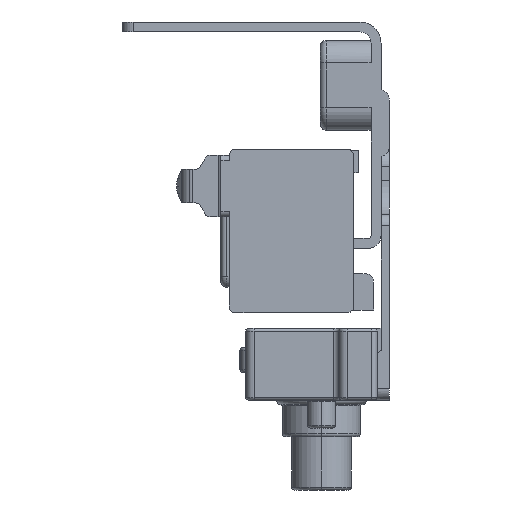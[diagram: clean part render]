
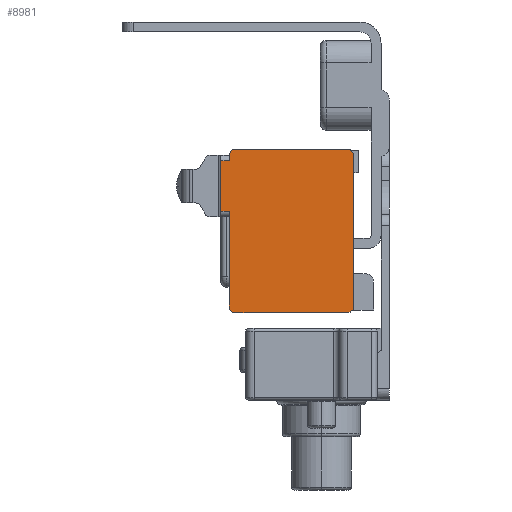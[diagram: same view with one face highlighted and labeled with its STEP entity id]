
A CAD part, left-side view. The second image highlights one B-rep face of the part: STEP entity #8981.
In plain terms, the highlighted planar face has unit normal (-1, 0, 0).
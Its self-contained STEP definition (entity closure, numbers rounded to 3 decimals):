
#37 = CARTESIAN_POINT ( 'NONE',  ( -428., 28.5, 15.6 ) ) ;
#100 = VECTOR ( 'NONE', #1734, 1000. ) ;
#315 = ORIENTED_EDGE ( 'NONE', *, *, #10650, .T. ) ;
#331 = ORIENTED_EDGE ( 'NONE', *, *, #7683, .T. ) ;
#647 = CIRCLE ( 'NONE', #8768, 1. ) ;
#735 = CARTESIAN_POINT ( 'NONE',  ( -428., 27., -10.43 ) ) ;
#966 = CARTESIAN_POINT ( 'NONE',  ( -428., 5.9, -10.43 ) ) ;
#969 = LINE ( 'NONE', #2656, #10990 ) ;
#1026 = CARTESIAN_POINT ( 'NONE',  ( -428., 4.9, 16.6 ) ) ;
#1138 = CIRCLE ( 'NONE', #8184, 1. ) ;
#1160 = EDGE_CURVE ( 'NONE', #6567, #1204, #11928, .T. ) ;
#1204 = VERTEX_POINT ( 'NONE', #6650 ) ;
#1224 = DIRECTION ( 'NONE',  ( -1., 0., 0. ) ) ;
#1597 = VECTOR ( 'NONE', #5221, 1000. ) ;
#1734 = DIRECTION ( 'NONE',  ( 0., 0., -1. ) ) ;
#1789 = CARTESIAN_POINT ( 'NONE',  ( -428., 28.5, 6.6 ) ) ;
#1976 = DIRECTION ( 'NONE',  ( 0., 1., 0. ) ) ;
#2097 = CARTESIAN_POINT ( 'NONE',  ( -428., 4.9, -10.43 ) ) ;
#2656 = CARTESIAN_POINT ( 'NONE',  ( -428., 5.9, -11.43 ) ) ;
#2898 = DIRECTION ( 'NONE',  ( -1., 0., 0. ) ) ;
#2976 = FACE_OUTER_BOUND ( 'NONE', #7958, .T. ) ;
#3079 = LINE ( 'NONE', #5211, #11093 ) ;
#3250 = ORIENTED_EDGE ( 'NONE', *, *, #8422, .T. ) ;
#3545 = CARTESIAN_POINT ( 'NONE',  ( -428., 28.5, 15.6 ) ) ;
#3655 = DIRECTION ( 'NONE',  ( 0., -1., 0. ) ) ;
#3938 = EDGE_CURVE ( 'NONE', #6869, #6567, #9049, .T. ) ;
#3952 = ORIENTED_EDGE ( 'NONE', *, *, #11631, .T. ) ;
#4030 = LINE ( 'NONE', #1789, #6744 ) ;
#4055 = EDGE_CURVE ( 'NONE', #10079, #6869, #8123, .T. ) ;
#4075 = CARTESIAN_POINT ( 'NONE',  ( -428., 26., -10.43 ) ) ;
#4190 = AXIS2_PLACEMENT_3D ( 'NONE', #8933, #2898, #9911 ) ;
#4265 = DIRECTION ( 'NONE',  ( 1., 0., 0. ) ) ;
#4822 = LINE ( 'NONE', #2097, #9820 ) ;
#5083 = DIRECTION ( 'NONE',  ( 0., 0., 1. ) ) ;
#5092 = DIRECTION ( 'NONE',  ( 0., 1., 0. ) ) ;
#5211 = CARTESIAN_POINT ( 'NONE',  ( -428., 5.9, 17.6 ) ) ;
#5221 = DIRECTION ( 'NONE',  ( 0., 0., -1. ) ) ;
#5356 = CARTESIAN_POINT ( 'NONE',  ( -428., 28.5, 16.6 ) ) ;
#5779 = VERTEX_POINT ( 'NONE', #9259 ) ;
#6080 = CARTESIAN_POINT ( 'NONE',  ( -428., 27., 16.6 ) ) ;
#6118 = CARTESIAN_POINT ( 'NONE',  ( -428., 5.9, 16.6 ) ) ;
#6188 = EDGE_CURVE ( 'NONE', #10362, #10079, #11654, .T. ) ;
#6237 = DIRECTION ( 'NONE',  ( 0., 1., 0. ) ) ;
#6276 = AXIS2_PLACEMENT_3D ( 'NONE', #966, #8004, #1976 ) ;
#6295 = VERTEX_POINT ( 'NONE', #1026 ) ;
#6403 = VECTOR ( 'NONE', #11594, 1000. ) ;
#6460 = VECTOR ( 'NONE', #9438, 1000. ) ;
#6567 = VERTEX_POINT ( 'NONE', #3545 ) ;
#6650 = CARTESIAN_POINT ( 'NONE',  ( -428., 28.5, 6.6 ) ) ;
#6672 = CARTESIAN_POINT ( 'NONE',  ( -428., 27., 6.6 ) ) ;
#6744 = VECTOR ( 'NONE', #9757, 1000. ) ;
#6782 = LINE ( 'NONE', #12389, #6460 ) ;
#6869 = VERTEX_POINT ( 'NONE', #11130 ) ;
#6943 = EDGE_CURVE ( 'NONE', #6295, #12601, #1138, .T. ) ;
#7261 = CARTESIAN_POINT ( 'NONE',  ( -428., 5.9, 16.6 ) ) ;
#7611 = CARTESIAN_POINT ( 'NONE',  ( -428., 26., 17.6 ) ) ;
#7683 = EDGE_CURVE ( 'NONE', #10072, #5779, #969, .T. ) ;
#7688 = ORIENTED_EDGE ( 'NONE', *, *, #9057, .T. ) ;
#7922 = ORIENTED_EDGE ( 'NONE', *, *, #6943, .T. ) ;
#7958 = EDGE_LOOP ( 'NONE', ( #10000, #315, #7922, #3952, #10405, #8889, #11916, #12188, #10425, #7688, #3250, #331 ) ) ;
#8004 = DIRECTION ( 'NONE',  ( -1., 0., 0. ) ) ;
#8123 = LINE ( 'NONE', #735, #100 ) ;
#8184 = AXIS2_PLACEMENT_3D ( 'NONE', #7261, #1224, #8256 ) ;
#8256 = DIRECTION ( 'NONE',  ( 0., 1., 0. ) ) ;
#8422 = EDGE_CURVE ( 'NONE', #10414, #10072, #647, .T. ) ;
#8768 = AXIS2_PLACEMENT_3D ( 'NONE', #4075, #11083, #5092 ) ;
#8886 = EDGE_CURVE ( 'NONE', #5779, #12247, #11286, .T. ) ;
#8889 = ORIENTED_EDGE ( 'NONE', *, *, #4055, .T. ) ;
#8933 = CARTESIAN_POINT ( 'NONE',  ( -428., 26., 16.6 ) ) ;
#8981 = ADVANCED_FACE ( 'NONE', ( #2976 ), #10265, .F. ) ;
#9049 = LINE ( 'NONE', #37, #6403 ) ;
#9057 = EDGE_CURVE ( 'NONE', #9933, #10414, #6782, .T. ) ;
#9259 = CARTESIAN_POINT ( 'NONE',  ( -428., 5.9, -11.43 ) ) ;
#9438 = DIRECTION ( 'NONE',  ( 0., 0., -1. ) ) ;
#9757 = DIRECTION ( 'NONE',  ( 0., -1., 0. ) ) ;
#9820 = VECTOR ( 'NONE', #5083, 1000. ) ;
#9911 = DIRECTION ( 'NONE',  ( 0., 1., 0. ) ) ;
#9933 = VERTEX_POINT ( 'NONE', #6672 ) ;
#10000 = ORIENTED_EDGE ( 'NONE', *, *, #8886, .T. ) ;
#10072 = VERTEX_POINT ( 'NONE', #11043 ) ;
#10079 = VERTEX_POINT ( 'NONE', #6080 ) ;
#10265 = PLANE ( 'NONE',  #12891 ) ;
#10280 = CARTESIAN_POINT ( 'NONE',  ( -428., 4.9, -10.43 ) ) ;
#10362 = VERTEX_POINT ( 'NONE', #7611 ) ;
#10405 = ORIENTED_EDGE ( 'NONE', *, *, #6188, .T. ) ;
#10414 = VERTEX_POINT ( 'NONE', #11688 ) ;
#10425 = ORIENTED_EDGE ( 'NONE', *, *, #10452, .T. ) ;
#10452 = EDGE_CURVE ( 'NONE', #1204, #9933, #4030, .T. ) ;
#10650 = EDGE_CURVE ( 'NONE', #12247, #6295, #4822, .T. ) ;
#10990 = VECTOR ( 'NONE', #3655, 1000. ) ;
#11043 = CARTESIAN_POINT ( 'NONE',  ( -428., 26., -11.43 ) ) ;
#11083 = DIRECTION ( 'NONE',  ( -1., 0., 0. ) ) ;
#11093 = VECTOR ( 'NONE', #6237, 1000. ) ;
#11130 = CARTESIAN_POINT ( 'NONE',  ( -428., 27., 15.6 ) ) ;
#11286 = CIRCLE ( 'NONE', #6276, 1. ) ;
#11298 = DIRECTION ( 'NONE',  ( 0., 1., 0. ) ) ;
#11594 = DIRECTION ( 'NONE',  ( 0., 1., 0. ) ) ;
#11631 = EDGE_CURVE ( 'NONE', #12601, #10362, #3079, .T. ) ;
#11654 = CIRCLE ( 'NONE', #4190, 1. ) ;
#11688 = CARTESIAN_POINT ( 'NONE',  ( -428., 27., -10.43 ) ) ;
#11916 = ORIENTED_EDGE ( 'NONE', *, *, #3938, .T. ) ;
#11928 = LINE ( 'NONE', #5356, #1597 ) ;
#12188 = ORIENTED_EDGE ( 'NONE', *, *, #1160, .T. ) ;
#12247 = VERTEX_POINT ( 'NONE', #10280 ) ;
#12389 = CARTESIAN_POINT ( 'NONE',  ( -428., 27., -10.43 ) ) ;
#12573 = CARTESIAN_POINT ( 'NONE',  ( -428., 5.9, 17.6 ) ) ;
#12601 = VERTEX_POINT ( 'NONE', #12573 ) ;
#12891 = AXIS2_PLACEMENT_3D ( 'NONE', #6118, #4265, #11298 ) ;
